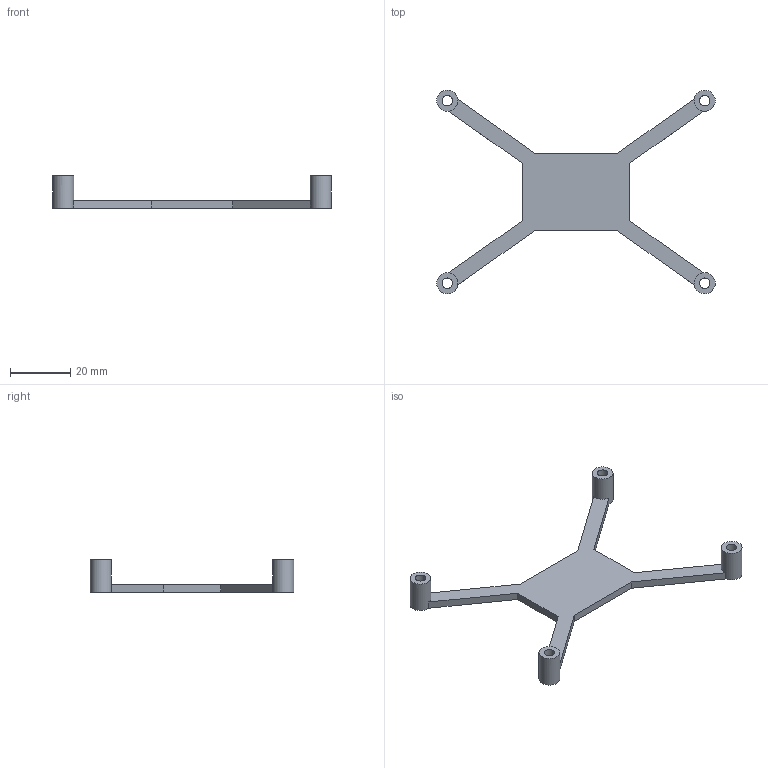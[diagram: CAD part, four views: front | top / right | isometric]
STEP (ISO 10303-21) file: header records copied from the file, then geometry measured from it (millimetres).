
FILE_DESCRIPTION (( 'STEP AP203' ), '1' );
FILE_NAME ('Screen Bracket.step', '2015-03-14T23:36:07', ( '' ), ( '' ), 'SwSTEP 2.0', 'SolidWorks 2013', '' );
FILE_SCHEMA (( 'CONFIG_CONTROL_DESIGN' ));
Length unit declared in the file: inch
Products named in the file (1): Screen Bracket
Bounding box: 92.71 x 67.71 x 10.79 mm (x, y, z)
Volume: 5047.1 mm3; surface area: 5441.6 mm2
Topology: 1 solids, 1 shells, 26 faces, 72 edges, 48 vertices
Faces by surface type: plane 18, cylinder 8
Full cylindrical faces by diameter (mm): 3.454 x4, 6.985 x4
Entity records: 855 total; most frequent: DIRECTION 134, CARTESIAN_POINT 131, ORIENTED_EDGE 120, EDGE_CURVE 60, AXIS2_PLACEMENT_3D 47, VERTEX_POINT 44, EDGE_LOOP 42, VECTOR 40
